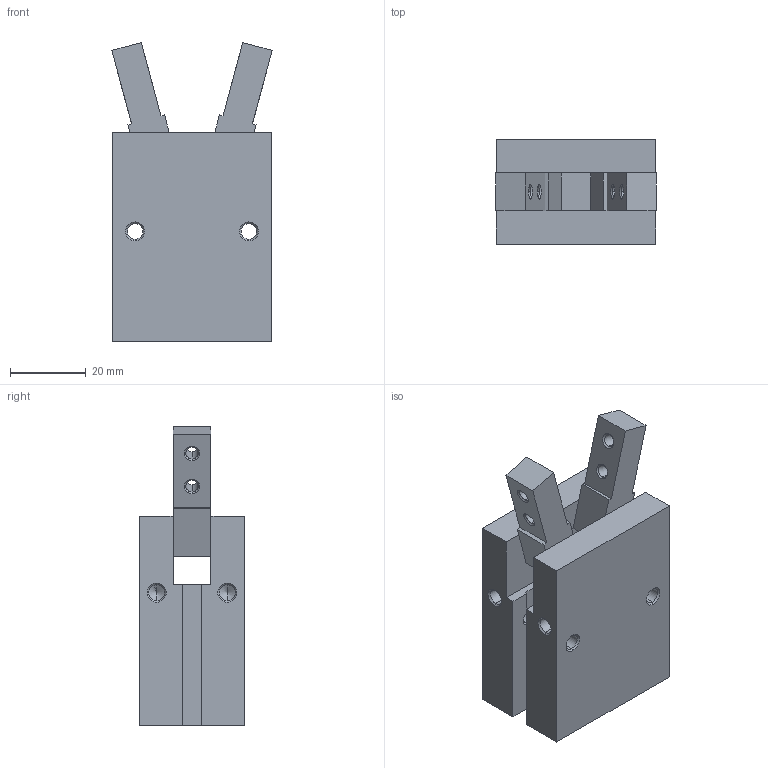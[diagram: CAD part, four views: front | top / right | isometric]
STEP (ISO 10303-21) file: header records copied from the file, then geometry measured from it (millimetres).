
FILE_DESCRIPTION (( 'STEP AP214' ), '1' );
FILE_NAME ('GMHC2-20S.STEP', '2019-11-12T01:15:05', ( '微软用户' ), ( '微软中国' ), 'SwSTEP 2.0', 'SolidWorks 2016', '' );
FILE_SCHEMA (( 'AUTOMOTIVE_DESIGN' ));
Length unit declared in the file: millimetre
Products named in the file (1): GMHC2-20S
Bounding box: 42.22 x 27.6 x 78.78 mm (x, y, z)
Surface area: 17032.2 mm2 (no closed solid volume)
Topology: 0 solids, 3 shells, 143 faces, 410 edges, 257 vertices
Faces by surface type: plane 55, cylinder 44, cone 44
Entity records: 5289 total; most frequent: CARTESIAN_POINT 1497, DIRECTION 808, ORIENTED_EDGE 764, EDGE_CURVE 400, AXIS2_PLACEMENT_3D 298, VERTEX_POINT 257, LINE 212, VECTOR 212
